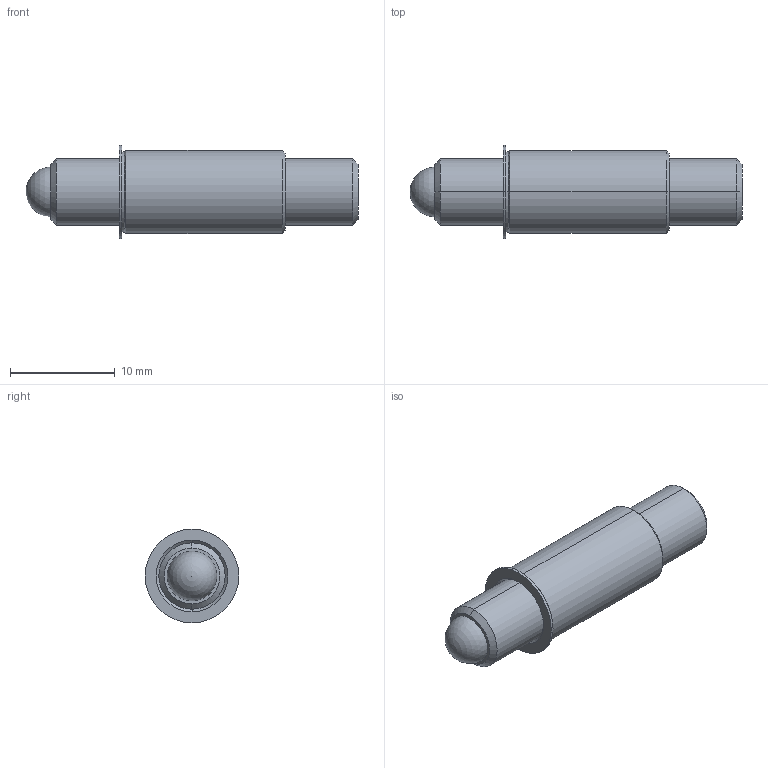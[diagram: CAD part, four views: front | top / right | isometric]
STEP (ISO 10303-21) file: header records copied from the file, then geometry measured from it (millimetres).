
FILE_DESCRIPTION (( 'STEP AP214' ), '1' );
FILE_NAME ('TSB250-80-1250_625-AA.STEP', '2013-03-14T12:50:51', ( 'workpc' ), ( 'Microsoft' ), 'SwSTEP 2.0', 'SolidWorks 2013', '' );
FILE_SCHEMA (( 'AUTOMOTIVE_DESIGN' ));
Length unit declared in the file: inch
Products named in the file (1): TSB250-80-1250_625-AA
Bounding box: 31.75 x 8.94 x 8.94 mm (x, y, z)
Surface area: 1166 mm2 (no closed solid volume)
Topology: 0 solids, 3 shells, 33 faces, 77 edges, 49 vertices
Faces by surface type: cone 12, plane 11, cylinder 8, sphere 2
Entity records: 1358 total; most frequent: DIRECTION 174, CARTESIAN_POINT 152, ORIENTED_EDGE 132, EDGE_CURVE 72, AXIS2_PLACEMENT_3D 68, VERTEX_POINT 46, EDGE_LOOP 38, VECTOR 38
